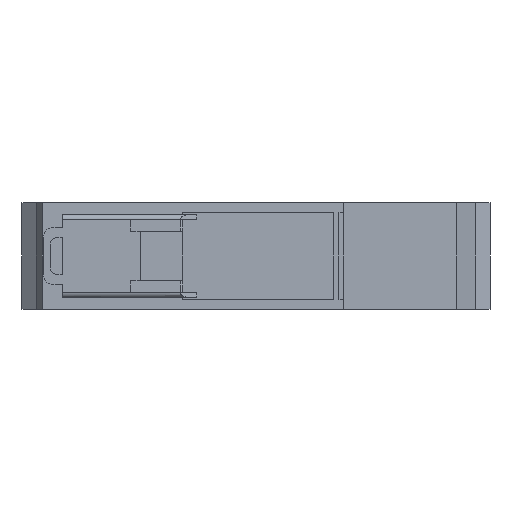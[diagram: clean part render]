
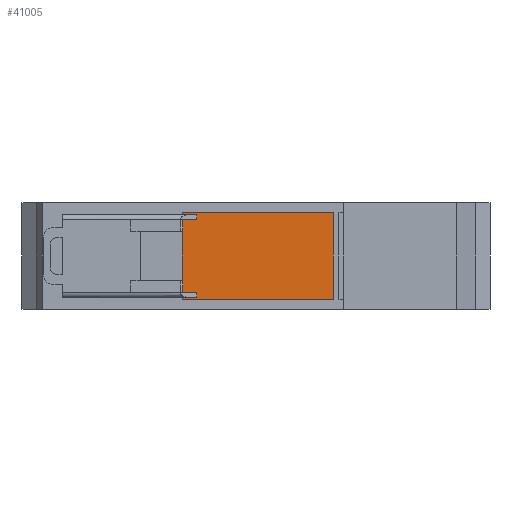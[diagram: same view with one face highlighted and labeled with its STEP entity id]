
A CAD part, front view. The second image highlights one B-rep face of the part: STEP entity #41005.
In plain terms, the highlighted planar face has unit normal (0, -1, 0).
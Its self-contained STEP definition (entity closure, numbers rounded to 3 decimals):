
#6819=DIRECTION('',(0.,0.,-1.));
#6820=VECTOR('',#6819,18.37);
#6821=CARTESIAN_POINT('',(16.36,-105.23,9.185));
#6822=LINE('',#6821,#6820);
#6823=DIRECTION('',(-1.,0.,0.));
#6824=VECTOR('',#6823,32.);
#6825=CARTESIAN_POINT('',(16.36,-105.23,-9.185));
#6826=LINE('',#6825,#6824);
#6827=DIRECTION('',(0.,0.,1.));
#6828=VECTOR('',#6827,18.37);
#6829=CARTESIAN_POINT('',(-15.64,-105.23,-9.185));
#6830=LINE('',#6829,#6828);
#6831=DIRECTION('',(1.,0.,0.));
#6832=VECTOR('',#6831,32.);
#6833=CARTESIAN_POINT('',(-15.64,-105.23,9.185));
#6834=LINE('',#6833,#6832);
#29812=CARTESIAN_POINT('',(16.36,-105.23,9.185));
#29813=CARTESIAN_POINT('',(16.36,-105.23,-9.185));
#29814=VERTEX_POINT('',#29812);
#29815=VERTEX_POINT('',#29813);
#34207=CARTESIAN_POINT('',(-15.64,-105.23,-9.185));
#34208=VERTEX_POINT('',#34207);
#34209=CARTESIAN_POINT('',(-15.64,-105.23,9.185));
#34210=VERTEX_POINT('',#34209);
#40994=CARTESIAN_POINT('',(16.36,-105.23,9.185));
#40995=DIRECTION('',(0.,1.,0.));
#40996=DIRECTION('',(0.,0.,1.));
#40997=AXIS2_PLACEMENT_3D('',#40994,#40995,#40996);
#40998=PLANE('',#40997);
#40999=ORIENTED_EDGE('',*,*,#40961,.T.);
#41000=ORIENTED_EDGE('',*,*,#40975,.T.);
#41001=ORIENTED_EDGE('',*,*,#40988,.T.);
#41002=ORIENTED_EDGE('',*,*,#40946,.T.);
#41003=EDGE_LOOP('',(#40999,#41000,#41001,#41002));
#41004=FACE_OUTER_BOUND('',#41003,.F.);
#41005=ADVANCED_FACE('',(#41004),#40998,.F.);
#40946=EDGE_CURVE('',#34210,#29814,#6834,.T.);
#40961=EDGE_CURVE('',#29814,#29815,#6822,.T.);
#40975=EDGE_CURVE('',#29815,#34208,#6826,.T.);
#40988=EDGE_CURVE('',#34208,#34210,#6830,.T.);
